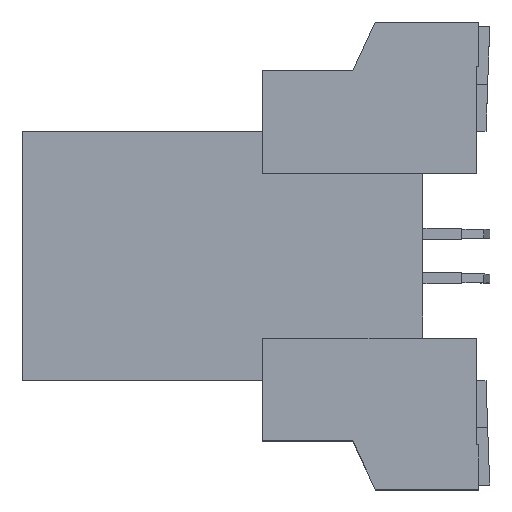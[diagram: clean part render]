
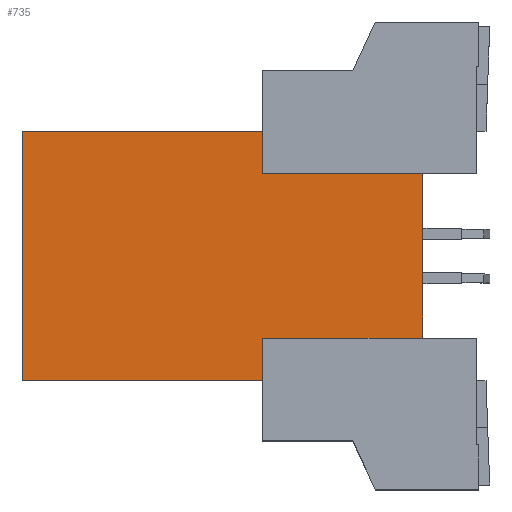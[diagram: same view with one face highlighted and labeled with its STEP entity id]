
A CAD part, top view. The second image highlights one B-rep face of the part: STEP entity #735.
In plain terms, the highlighted planar face has unit normal (0, 0, 1).
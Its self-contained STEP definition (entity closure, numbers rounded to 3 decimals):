
#692=AXIS2_PLACEMENT_3D('Plane Axis2P3D',#689,#690,#691) ;
#49=CARTESIAN_POINT('Vertex',(3.,4.7,8.125)) ;
#52=CARTESIAN_POINT('Line Origine',(3.,1.,8.125)) ;
#56=CARTESIAN_POINT('Vertex',(3.,-2.7,8.125)) ;
#197=CARTESIAN_POINT('Line Origine',(-9.6,-4.6,8.125)) ;
#201=CARTESIAN_POINT('Vertex',(-4.2,-4.6,8.125)) ;
#203=CARTESIAN_POINT('Vertex',(-15.,-4.6,8.125)) ;
#424=CARTESIAN_POINT('Line Origine',(-15.,1.,8.125)) ;
#428=CARTESIAN_POINT('Vertex',(-15.,6.6,8.125)) ;
#689=CARTESIAN_POINT('Axis2P3D Location',(3.,1.,8.125)) ;
#694=CARTESIAN_POINT('Line Origine',(-0.6,4.7,8.125)) ;
#698=CARTESIAN_POINT('Vertex',(-4.2,4.7,8.125)) ;
#701=CARTESIAN_POINT('Line Origine',(-4.2,5.65,8.125)) ;
#705=CARTESIAN_POINT('Vertex',(-4.2,6.6,8.125)) ;
#708=CARTESIAN_POINT('Line Origine',(-9.6,6.6,8.125)) ;
#713=CARTESIAN_POINT('Line Origine',(-4.2,-3.65,8.125)) ;
#717=CARTESIAN_POINT('Vertex',(-4.2,-2.7,8.125)) ;
#720=CARTESIAN_POINT('Line Origine',(-0.6,-2.7,8.125)) ;
#53=DIRECTION('Vector Direction',(0.,1.,0.)) ;
#198=DIRECTION('Vector Direction',(-1.,0.,0.)) ;
#425=DIRECTION('Vector Direction',(0.,1.,0.)) ;
#690=DIRECTION('Axis2P3D Direction',(0.,0.,-1.)) ;
#691=DIRECTION('Axis2P3D XDirection',(-1.,0.,0.)) ;
#695=DIRECTION('Vector Direction',(1.,0.,0.)) ;
#702=DIRECTION('Vector Direction',(0.,-1.,0.)) ;
#709=DIRECTION('Vector Direction',(-1.,0.,0.)) ;
#714=DIRECTION('Vector Direction',(0.,-1.,0.)) ;
#721=DIRECTION('Vector Direction',(1.,0.,0.)) ;
#54=VECTOR('Line Direction',#53,1.) ;
#199=VECTOR('Line Direction',#198,1.) ;
#426=VECTOR('Line Direction',#425,1.) ;
#696=VECTOR('Line Direction',#695,1.) ;
#703=VECTOR('Line Direction',#702,1.) ;
#710=VECTOR('Line Direction',#709,1.) ;
#715=VECTOR('Line Direction',#714,1.) ;
#722=VECTOR('Line Direction',#721,1.) ;
#726=ORIENTED_EDGE('',*,*,#700,.F.) ;
#727=ORIENTED_EDGE('',*,*,#707,.F.) ;
#728=ORIENTED_EDGE('',*,*,#712,.T.) ;
#729=ORIENTED_EDGE('',*,*,#430,.F.) ;
#730=ORIENTED_EDGE('',*,*,#205,.F.) ;
#731=ORIENTED_EDGE('',*,*,#719,.F.) ;
#732=ORIENTED_EDGE('',*,*,#724,.T.) ;
#733=ORIENTED_EDGE('',*,*,#58,.T.) ;
#735=ADVANCED_FACE('\X2\FF8AFF9FFF70FF82\X0\ \X2\FF8EFF9EFF83FF9EFF68FF70\X0\',(#734),#693,.F.) ;
#58=EDGE_CURVE('',#57,#50,#55,.T.) ;
#205=EDGE_CURVE('',#202,#204,#200,.T.) ;
#430=EDGE_CURVE('',#204,#429,#427,.T.) ;
#700=EDGE_CURVE('',#699,#50,#697,.T.) ;
#707=EDGE_CURVE('',#706,#699,#704,.T.) ;
#712=EDGE_CURVE('',#706,#429,#711,.T.) ;
#719=EDGE_CURVE('',#718,#202,#716,.T.) ;
#724=EDGE_CURVE('',#718,#57,#723,.T.) ;
#725=EDGE_LOOP('',(#726,#727,#728,#729,#730,#731,#732,#733)) ;
#734=FACE_OUTER_BOUND('',#725,.T.) ;
#55=LINE('Line',#52,#54) ;
#200=LINE('Line',#197,#199) ;
#427=LINE('Line',#424,#426) ;
#697=LINE('Line',#694,#696) ;
#704=LINE('Line',#701,#703) ;
#711=LINE('Line',#708,#710) ;
#716=LINE('Line',#713,#715) ;
#723=LINE('Line',#720,#722) ;
#693=PLANE('',#692) ;
#50=VERTEX_POINT('',#49) ;
#57=VERTEX_POINT('',#56) ;
#202=VERTEX_POINT('',#201) ;
#204=VERTEX_POINT('',#203) ;
#429=VERTEX_POINT('',#428) ;
#699=VERTEX_POINT('',#698) ;
#706=VERTEX_POINT('',#705) ;
#718=VERTEX_POINT('',#717) ;
